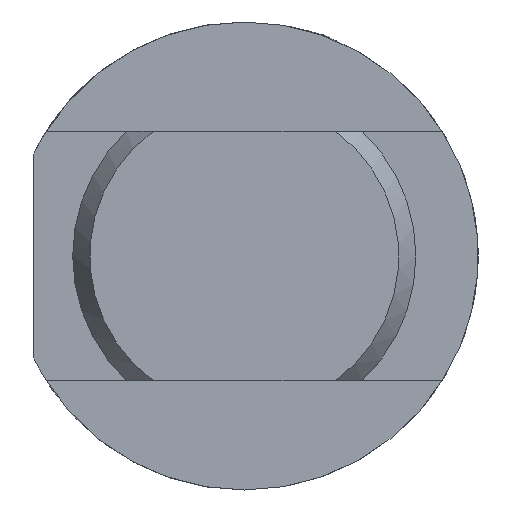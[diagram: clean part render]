
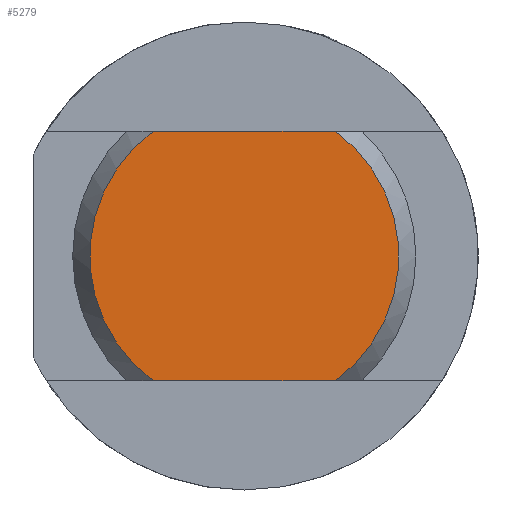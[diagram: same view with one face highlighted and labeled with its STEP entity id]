
A CAD part, left-side view. The second image highlights one B-rep face of the part: STEP entity #5279.
In plain terms, the highlighted planar face has unit normal (-1, 0, 0).
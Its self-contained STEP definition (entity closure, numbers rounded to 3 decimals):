
#828 = FACE_OUTER_BOUND ( 'NONE', #6254, .T. ) ;
#1090 = CARTESIAN_POINT ( 'NONE',  ( -495.364, 0., 0. ) ) ;
#1092 = PLANE ( 'NONE',  #7261 ) ;
#1095 = DIRECTION ( 'NONE',  ( -1., 0., 0. ) ) ;
#1096 = DIRECTION ( 'NONE',  ( 0., 0., 1. ) ) ;
#2066 = CARTESIAN_POINT ( 'NONE',  ( -495.364, 5.832, -8. ) ) ;
#2069 = CARTESIAN_POINT ( 'NONE',  ( -495.364, 5.832, 8. ) ) ;
#2070 = CARTESIAN_POINT ( 'NONE',  ( -495.364, -5.832, 8. ) ) ;
#2075 = CARTESIAN_POINT ( 'NONE',  ( -495.364, -5.832, -8. ) ) ;
#2318 = ORIENTED_EDGE ( 'NONE', *, *, #6586, .F. ) ;
#2319 = ORIENTED_EDGE ( 'NONE', *, *, #6587, .F. ) ;
#2320 = ORIENTED_EDGE ( 'NONE', *, *, #6588, .F. ) ;
#2321 = ORIENTED_EDGE ( 'NONE', *, *, #6584, .F. ) ;
#3509 = CIRCLE ( 'NONE', #4421, 9.9 ) ;
#3515 = CIRCLE ( 'NONE', #4422, 9.9 ) ;
#3517 = LINE ( 'NONE', #4200, #3522 ) ;
#3518 = LINE ( 'NONE', #4196, #3519 ) ;
#3519 = VECTOR ( 'NONE', #4197, 1000. ) ;
#3522 = VECTOR ( 'NONE', #4186, 1000. ) ;
#4186 = DIRECTION ( 'NONE',  ( 0., 1., 0. ) ) ;
#4191 = CARTESIAN_POINT ( 'NONE',  ( -495.364, 0., 0. ) ) ;
#4192 = DIRECTION ( 'NONE',  ( 1., 0., 0. ) ) ;
#4193 = DIRECTION ( 'NONE',  ( 0., 0., -1. ) ) ;
#4196 = CARTESIAN_POINT ( 'NONE',  ( -495.364, 13.5, 8. ) ) ;
#4197 = DIRECTION ( 'NONE',  ( 0., -1., 0. ) ) ;
#4200 = CARTESIAN_POINT ( 'NONE',  ( -495.364, 13.5, -8. ) ) ;
#4201 = CARTESIAN_POINT ( 'NONE',  ( -495.364, 0., 0. ) ) ;
#4202 = DIRECTION ( 'NONE',  ( 1., 0., 0. ) ) ;
#4203 = DIRECTION ( 'NONE',  ( 0., 0., -1. ) ) ;
#4421 = AXIS2_PLACEMENT_3D ( 'NONE', #4191, #4192, #4193 ) ;
#4422 = AXIS2_PLACEMENT_3D ( 'NONE', #4201, #4202, #4203 ) ;
#5279 = ADVANCED_FACE ( 'NONE', ( #828 ), #1092, .T. ) ;
#5825 = VERTEX_POINT ( 'NONE', #2066 ) ;
#5828 = VERTEX_POINT ( 'NONE', #2069 ) ;
#5829 = VERTEX_POINT ( 'NONE', #2070 ) ;
#5834 = VERTEX_POINT ( 'NONE', #2075 ) ;
#6254 = EDGE_LOOP ( 'NONE', ( #2318, #2319, #2320, #2321 ) ) ;
#6584 = EDGE_CURVE ( 'NONE', #5829, #5834, #3509, .T. ) ;
#6586 = EDGE_CURVE ( 'NONE', #5828, #5829, #3518, .T. ) ;
#6587 = EDGE_CURVE ( 'NONE', #5825, #5828, #3515, .T. ) ;
#6588 = EDGE_CURVE ( 'NONE', #5834, #5825, #3517, .T. ) ;
#7261 = AXIS2_PLACEMENT_3D ( 'NONE', #1090, #1095, #1096 ) ;
